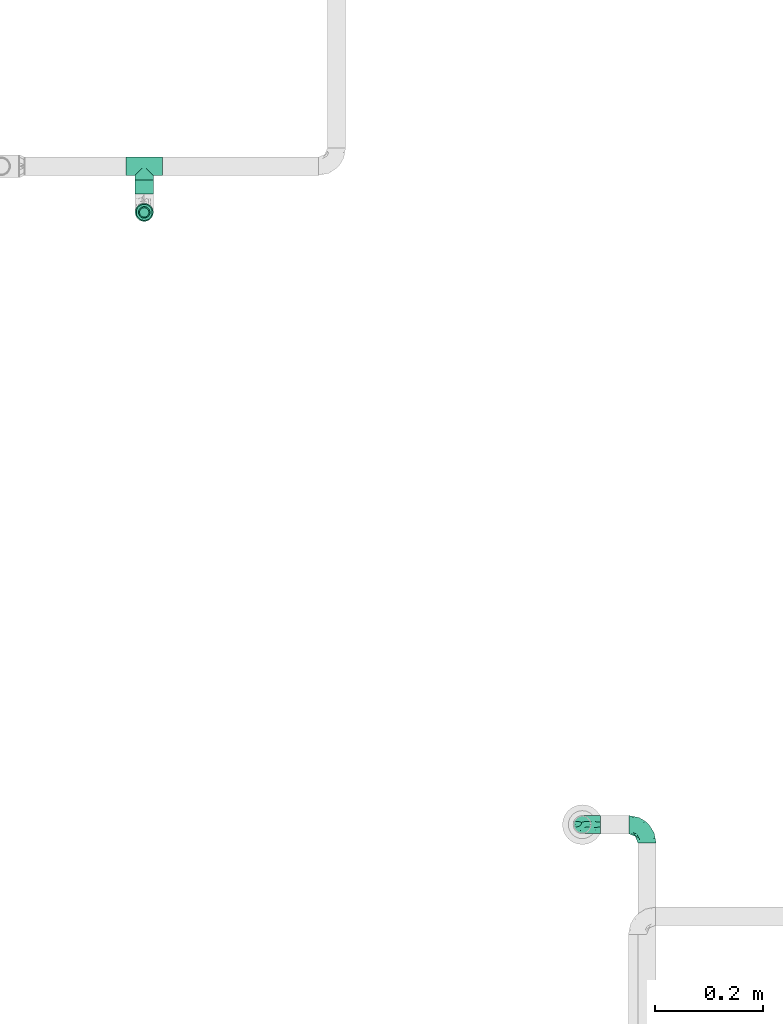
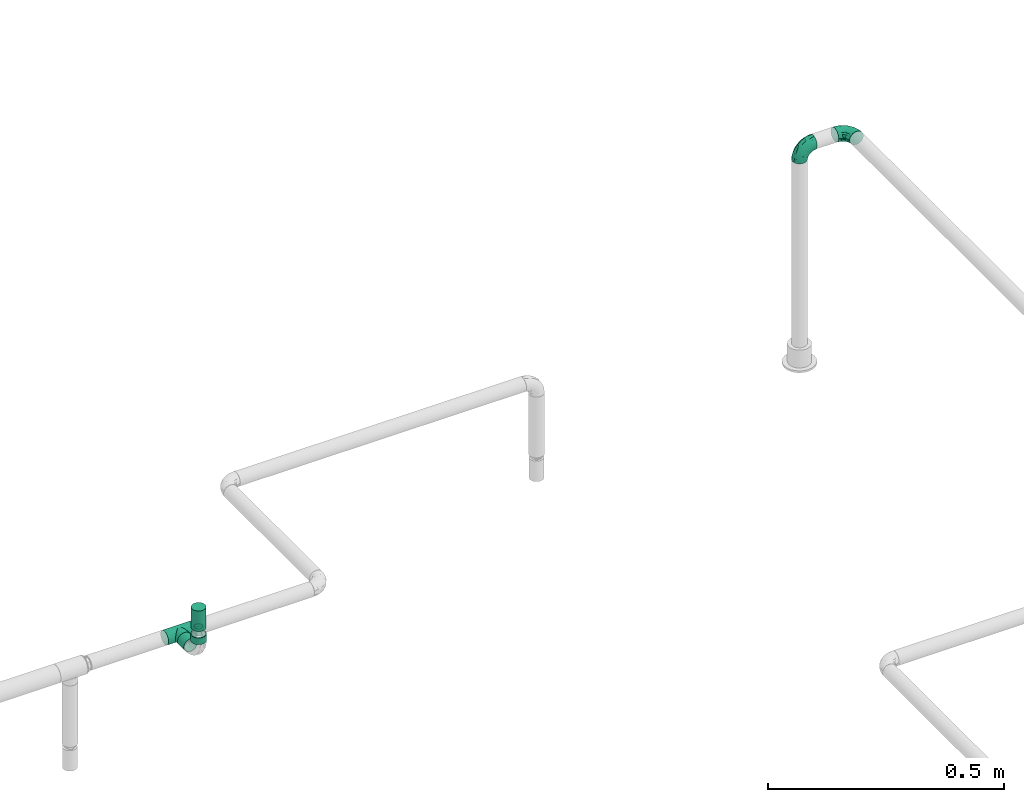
# One storey, part 69 of 95: 3 flow fittings, 3 flow segments, 1 flow terminal.
"""IFC2X3 building model written with IfcOpenShell, lengths in millimetres."""

from ifc_helpers import new_model, entity, si_unit, converted_unit, derived_unit, direction, frame, origin_with_axes, origin_2d_with_axis, place, context, subcontext, project, spatial, hollow_circle, extrude, open_shell, surface_model, source, transform, mapped, type_object, element, save


model = new_model("IFC2X3")

# Units and contexts
model_context = context("Model", 3, precision=0.01, world=frame((0.0, 4.29681676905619e-09, 0.0)), true_north=direction((4.01073788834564e-13, 1.0)))
plan_context = context("Plan", 3, precision=0.01, world=frame((0.0, 4.29681676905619e-09, 0.0)), true_north=direction((4.01073788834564e-13, 1.0)))
body_context = subcontext(model_context, "Body", "Model", "MODEL_VIEW")
ifc_project = project(units=[converted_unit("PLANEANGLEUNIT", "DEGREE", entity("IfcPositiveLengthMeasure", 0.0174532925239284), si_unit("PLANEANGLEUNIT", "RADIAN"), dimensions=[0, 0, 0, 0, 0, 0, 0]), si_unit("AREAUNIT", "SQUARE_METRE"), si_unit("LENGTHUNIT", "METRE", prefix="MILLI"), si_unit("MASSUNIT", "GRAM", prefix="KILO"), si_unit("POWERUNIT", "WATT"), si_unit("PRESSUREUNIT", "PASCAL"), si_unit("FORCEUNIT", "NEWTON", prefix="KILO"), si_unit("ELECTRICVOLTAGEUNIT", "VOLT"), si_unit("ELECTRICCURRENTUNIT", "AMPERE"), si_unit("THERMODYNAMICTEMPERATUREUNIT", "DEGREE_CELSIUS"), si_unit("TIMEUNIT", "SECOND"), si_unit("VOLUMEUNIT", "CUBIC_METRE"), derived_unit("LINEARVELOCITYUNIT", [(si_unit("LENGTHUNIT", "METRE"), 1), (si_unit("TIMEUNIT", "SECOND"), -1)]), derived_unit("VOLUMETRICFLOWRATEUNIT", [(si_unit("VOLUMEUNIT", "CUBIC_METRE"), 1), (si_unit("TIMEUNIT", "SECOND"), -1)]), derived_unit("THERMALTRANSMITTANCEUNIT", [(si_unit("POWERUNIT", "WATT"), 1), (si_unit("THERMODYNAMICTEMPERATUREUNIT", "KELVIN"), -1), (si_unit("AREAUNIT", "SQUARE_METRE"), -1)]), derived_unit("SOUNDPRESSUREUNIT", [(si_unit("PRESSUREUNIT", "PASCAL"), 1)])], contexts=[model_context, plan_context])

# Site, building, storey
site_placement = place(None, frame((0.0, -4.29681676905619e-09, 0.0), z_axis=(0.0, 0.0, 1.0), x_axis=(1.0, 0.0, 0.0)))
site = spatial("IfcSite", under=ifc_project, at=site_placement, CompositionType="ELEMENT")
building_placement = place(site_placement, frame((0.0, 4.29681676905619e-09, 0.0), z_axis=(0.0, 0.0, 1.0), x_axis=(1.0, 0.0, 0.0)))
building = spatial("IfcBuilding", under=site, at=building_placement, Name="mc-building", CompositionType="ELEMENT")
storey_placement = place(building_placement, frame((0.0, 0.0, 210900.0), z_axis=(0.0, 0.0, 1.0), x_axis=(1.0, 0.0, 0.0)))
storey = spatial("IfcBuildingStorey", under=building, at=storey_placement, Name="Nivå F", CompositionType="ELEMENT", Elevation=210900.0)

# Flow fittings
pipe_fitting_type_1 = type_object("IfcPipeFittingType", Name="magi_pipe_fe_elbow_short_001", PredefinedType="BEND")
shared_shape_1 = source(origin_with_axes(), body_context, "Body", "SurfaceModel", [
    surface_model("IfcShellBasedSurfaceModel", [(-33.8, 8.45, -14.63583), (-33.8, 4.37404, -16.32415), (-33.8, 11.9501, -11.9501), (-33.8, -11.9501, -11.9501), (-33.8, -14.63583, -8.45), (-33.8, -8.45, -14.63583), (-33.8, 0.0, -16.9), (-33.8, -4.37404, -16.32415), (-33.8, -4.37404, 16.32415), (-33.8, 0.0, 16.9), (-33.8, -8.45, 14.63583), (-33.8, 16.32415, -4.37404), (-33.8, 14.63583, -8.45), (-33.8, -16.32415, -4.37404), (-33.8, -16.9, 0.0), (-33.8, -16.32415, 4.37404), (-33.8, 11.9501, 11.9501), (-33.8, 14.63583, 8.45), (-33.8, 16.32415, 4.37404), (-33.8, 4.37404, 16.32415), (-33.8, 8.45, 14.63583), (-33.8, -14.63583, 8.45), (-33.8, -11.9501, 11.9501), (-33.8, 16.9, 0.0), (-11.9501, 33.8, -11.9501), (0.0, 33.8, -16.9), (-4.37404, 33.8, -16.32415), (-8.45, 33.8, -14.63583), (-14.63583, 33.8, -8.45), (-16.32415, 33.8, -4.37404), (14.63583, 33.8, -8.45), (8.45, 33.8, 14.63583), (16.32415, 33.8, -4.37404), (8.45, 33.8, -14.63583), (11.9501, 33.8, -11.9501), (4.37404, 33.8, -16.32415), (16.32415, 33.8, 4.37404), (16.9, 33.8, 0.0), (-11.9501, 33.8, 11.9501), (-16.32415, 33.8, 4.37404), (-14.63583, 33.8, 8.45), (-8.45, 33.8, 14.63583), (-4.37404, 33.8, 16.32415), (11.9501, 33.8, 11.9501), (14.63583, 33.8, 8.45), (0.0, 33.8, 16.9), (4.37404, 33.8, 16.32415), (-16.9, 33.8, 0.0), (-24.79389, -13.12945, 9.48721), (-22.19287, -9.75018, 12.59315), (-24.09897, -14.97035, 0.0), (-14.93934, -10.76256, 8.5297), (-22.46095, -14.75051, 5.27077), (14.75051, 22.46094, 5.27077), (11.9251, 13.23888, 4.33236), (13.04069, 14.39795, 0.0), (7.71387, 13.68847, 11.55891), (9.75018, 22.19287, 12.59315), (4.10169, 13.0571, 14.04018), (-24.84007, -6.39063, 15.2048), (-25.81779, -2.23879, 16.61097), (-23.66549, 2.59054, 16.87119), (-26.50418, 14.06512, 11.08152), (-24.21253, 17.66365, 7.72657), (-29.58514, 15.86957, 7.00283), (-6.17382, -7.5455, 0.0), (-13.23888, -11.9251, 4.33236), (-14.39795, -13.04069, 0.0), (-17.81434, 18.87373, 11.97104), (-6.30846, 29.15138, 15.82987), (-2.31622, 25.28002, 16.85849), (-29.23923, 10.23435, 13.77053), (-1.45439, -2.85688, 7.61475), (-0.28326, 0.34872, 10.09509), (-5.74484, -4.04709, 10.4122), (-4.41137, 11.31918, 16.59407), (-8.39727, 3.10034, 15.7812), (-1.72649, 9.1306, 15.53089), (-17.39909, 24.75344, 7.64977), (-26.19233, 20.0512, 0.0), (-28.14518, 17.29657, 4.25857), (-26.05147, 6.6281, 15.96447), (-5.87354, 16.61944, 16.86968), (-12.51807, 12.51807, 16.48937), (-10.06312, 7.38516, 16.81295), (-3.01882, 3.01882, 13.81718), (-13.0571, -4.10169, 14.04018), (-16.82553, -0.15166, 16.38038), (10.76256, 14.93934, 8.5297), (13.12945, 24.79389, 9.48721), (6.39063, 24.84007, 15.2048), (2.23879, 25.81779, 16.61097), (-13.68847, -7.71387, 11.55891), (14.97035, 24.09897, 0.0), (-7.30894, 22.89991, 16.09489), (-10.67958, 26.17414, 14.008), (-12.78295, 18.26924, 15.06066), (-13.88562, 22.45231, 12.93244), (-18.04944, 15.16501, 14.04434), (-23.11658, 20.08178, 4.02986), (-21.84989, 21.84989, 0.0), (-18.55817, 25.48277, 3.93065), (-13.95142, 26.94732, 11.03289), (-18.57098, 7.23906, 16.59756), (-16.58335, 4.14122, 16.89279), (-17.96666, 11.46709, 15.63151), (-9.84453, 17.54304, 16.18938), (0.15166, 16.82553, 16.38038), (-23.27207, 11.47201, 14.23154), (3.84842, 5.86994, 10.70473), (-8.0212, -7.54413, 7.93275), (1.00345, -2.19508, 4.57414), (5.13203, 3.01004, 5.90201), (5.24161, 1.7543, 2.53265), (8.70457, 7.04947, 3.99182), (-20.0512, 26.19233, 0.0), (8.4852, 8.76699, 7.09296), (-4.55488, -6.72064, 4.90681), (2.05031, -2.05031, 0.0), (7.5455, 6.17382, 0.0), (-26.75399, 2.1369, -16.845), (-14.61995, 24.73803, -11.27736), (-28.45274, -13.45335, -9.81895), (-26.00469, 6.63555, -15.96645), (-23.06726, 20.04573, -4.26202), (-13.80647, -4.26506, -14.17873), (-14.67501, -0.21081, -16.07388), (-6.7902, -0.2828, -13.8478), (-24.53586, 11.08096, -14.13417), (-26.72048, 14.00837, -11.05776), (10.0967, 24.44989, -12.75976), (5.83237, 21.40218, -15.03047), (6.66249, 28.54238, -15.38093), (-20.38182, 15.48705, -12.74596), (12.53268, 21.23441, -9.15363), (12.54494, 15.67504, -5.54878), (9.7522, 12.89279, -8.66343), (-15.65186, 19.64213, -13.01327), (-12.03528, 20.66498, -14.67665), (-15.61907, 15.61906, -14.83879), (-25.56551, -15.26206, 0.0), (-24.65452, -15.12934, -5.50955), (13.45335, 28.45274, -9.81895), (15.12934, 24.65452, -5.50955), (-7.35442, -8.31014, -5.65563), (-15.67504, -12.54494, -5.54878), (-24.44989, -10.0967, -12.75976), (0.16522, 0.41303, -9.71728), (-5.70658, -5.33066, -8.89288), (-5.13869, -2.37198, -11.53565), (-21.23441, -12.53268, -9.15363), (0.71146, 7.93863, -14.09382), (0.21081, 14.67501, -16.07388), (3.49291, 14.42772, -14.76381), (-24.89911, -2.13088, -16.591), (-28.54238, -6.66249, -15.38093), (-18.44386, -7.71663, -13.26957), (2.13088, 24.89911, -16.591), (-28.64342, 17.44413, -2.89318), (1.70017, -1.28722, -5.09504), (-16.57067, 26.81947, -7.36596), (-17.69055, 27.4263, -3.76405), (-12.89279, -9.7522, -8.66343), (-5.96611, 5.96611, -15.95814), (-20.53709, 20.09345, -8.28985), (-2.1369, 26.75399, -16.845), (-6.89872, 24.58781, -16.02578), (-10.60739, 26.53157, -13.98044), (-21.40218, -5.83237, -15.03047), (2.93192, 5.89627, -11.55917), (6.89393, 12.61842, -11.82233), (5.58056, 5.95325, -8.79455), (-3.99512, 18.61798, -16.89635), (8.31014, 7.35442, -5.65563), (-9.1383, 9.86148, -16.89041), (-9.99983, 16.02119, -16.39699), (-16.68576, 9.78031, -16.34199), (-27.01915, 16.61158, -7.12979), (15.26206, 25.56551, 0.0), (-18.61798, 3.99512, -16.89635), (-19.37495, 27.82495, 0.0), (-12.61842, -6.89393, -11.82233), (-18.84705, 19.14018, -10.96545)], [open_shell([[[0, 1, 2]], [[3, 4, 5]], [[6, 7, 5]], [[8, 9, 10]], [[1, 6, 2]], [[11, 12, 2]], [[4, 2, 6]], [[2, 13, 10]], [[5, 4, 6]], [[2, 4, 13]], [[14, 15, 13]], [[11, 2, 16]], [[11, 17, 18]], [[11, 16, 17]], [[19, 20, 16]], [[16, 2, 10]], [[19, 16, 10]], [[21, 22, 15]], [[22, 13, 15]], [[22, 10, 13]], [[10, 9, 19]], [[11, 18, 23]], [[24, 25, 26]], [[24, 26, 27]], [[24, 28, 29]], [[25, 24, 30]], [[31, 32, 24]], [[33, 30, 34]], [[33, 35, 25]], [[25, 30, 33]], [[32, 30, 24]], [[32, 36, 37]], [[38, 24, 29]], [[39, 40, 29]], [[40, 38, 29]], [[38, 41, 42]], [[38, 31, 24]], [[31, 38, 42]], [[36, 43, 44]], [[36, 32, 43]], [[31, 45, 46]], [[32, 31, 43]], [[42, 45, 31]], [[39, 29, 47]], [[22, 48, 49]], [[15, 14, 50]], [[51, 48, 52]], [[53, 54, 55]], [[48, 22, 21]], [[15, 52, 21]], [[56, 57, 58]], [[49, 10, 22]], [[49, 59, 10]], [[9, 60, 61]], [[62, 63, 64]], [[65, 66, 67]], [[57, 43, 31]], [[62, 68, 63]], [[42, 69, 70]], [[20, 71, 16]], [[8, 60, 9]], [[72, 73, 74]], [[75, 76, 77]], [[16, 62, 17]], [[40, 39, 78]], [[79, 23, 80]], [[64, 18, 17]], [[9, 61, 19]], [[19, 81, 20]], [[82, 83, 84]], [[74, 85, 86]], [[59, 86, 87]], [[88, 89, 57]], [[90, 31, 46]], [[44, 53, 36]], [[46, 45, 91]], [[54, 53, 88]], [[44, 89, 53]], [[92, 86, 49]], [[89, 44, 43]], [[10, 59, 8]], [[53, 55, 93]], [[93, 36, 53]], [[66, 52, 67]], [[94, 82, 70]], [[95, 96, 94]], [[97, 98, 96]], [[79, 99, 100]], [[41, 38, 95]], [[101, 100, 99]], [[68, 78, 63]], [[42, 41, 69]], [[23, 18, 80]], [[95, 94, 69]], [[78, 101, 99]], [[38, 102, 95]], [[70, 45, 42]], [[97, 95, 102]], [[15, 50, 52]], [[90, 57, 31]], [[57, 90, 58]], [[81, 19, 61]], [[103, 104, 84]], [[105, 81, 103]], [[38, 40, 102]], [[106, 96, 83]], [[94, 106, 82]], [[91, 70, 107]], [[71, 62, 16]], [[62, 108, 98]], [[86, 59, 49]], [[67, 52, 50]], [[60, 59, 87]], [[92, 49, 51]], [[86, 85, 76]], [[91, 90, 46]], [[37, 36, 93]], [[107, 77, 58]], [[107, 58, 90]], [[58, 85, 109]], [[110, 74, 92]], [[72, 74, 110]], [[66, 51, 52]], [[72, 111, 112]], [[113, 114, 112]], [[56, 88, 57]], [[52, 48, 21]], [[49, 48, 51]], [[57, 89, 43]], [[53, 89, 88]], [[103, 81, 61]], [[71, 81, 108]], [[18, 64, 80]], [[63, 78, 99]], [[47, 115, 101]], [[101, 115, 100]], [[40, 78, 102]], [[68, 102, 78]], [[97, 96, 95]], [[105, 98, 108]], [[103, 84, 83]], [[107, 70, 82]], [[76, 84, 87]], [[82, 84, 75]], [[70, 91, 45]], [[90, 91, 107]], [[59, 60, 8]], [[61, 60, 87]], [[73, 85, 74]], [[109, 112, 116]], [[103, 61, 104]], [[105, 103, 83]], [[96, 105, 83]], [[81, 105, 108]], [[96, 98, 105]], [[62, 98, 68]], [[61, 87, 104]], [[87, 84, 104]], [[86, 76, 87]], [[77, 76, 85]], [[58, 77, 85]], [[75, 77, 107]], [[82, 75, 107]], [[76, 75, 84]], [[81, 71, 20]], [[62, 71, 108]], [[95, 69, 41]], [[70, 69, 94]], [[62, 64, 17]], [[80, 63, 99]], [[63, 80, 64]], [[80, 99, 79]], [[66, 65, 117]], [[110, 66, 117]], [[112, 114, 116]], [[118, 117, 65]], [[110, 92, 51]], [[112, 111, 113]], [[119, 55, 54]], [[74, 86, 92]], [[58, 109, 56]], [[116, 56, 109]], [[66, 110, 51]], [[72, 110, 117]], [[111, 72, 117]], [[73, 112, 109]], [[117, 118, 111]], [[113, 111, 118]], [[118, 119, 113]], [[114, 119, 54]], [[119, 114, 113]], [[116, 54, 88]], [[54, 116, 114]], [[116, 88, 56]], [[112, 73, 72]], [[85, 73, 109]], [[78, 39, 101]], [[47, 101, 39]], [[102, 68, 97]], [[97, 68, 98]], [[82, 106, 83]], [[94, 96, 106]], [[1, 120, 6]], [[28, 24, 121]], [[3, 122, 4]], [[0, 123, 1]], [[100, 124, 79]], [[125, 126, 127]], [[128, 2, 129]], [[130, 131, 132]], [[128, 129, 133]], [[134, 135, 136]], [[137, 138, 139]], [[128, 0, 2]], [[67, 140, 141]], [[134, 142, 143]], [[141, 13, 4]], [[144, 65, 145]], [[146, 3, 5]], [[147, 148, 149]], [[145, 141, 150]], [[151, 152, 153]], [[154, 7, 6]], [[5, 155, 146]], [[150, 146, 156]], [[155, 5, 7]], [[143, 135, 134]], [[35, 157, 25]], [[23, 79, 158]], [[148, 159, 144]], [[160, 161, 29]], [[145, 162, 144]], [[163, 152, 151]], [[29, 28, 160]], [[121, 164, 160]], [[33, 34, 130]], [[25, 165, 26]], [[26, 165, 166]], [[142, 34, 30]], [[24, 27, 167]], [[124, 161, 164]], [[157, 35, 132]], [[155, 154, 168]], [[123, 0, 128]], [[169, 170, 171]], [[172, 157, 152]], [[26, 166, 27]], [[132, 35, 33]], [[142, 130, 34]], [[168, 154, 126]], [[136, 135, 173]], [[133, 137, 139]], [[2, 12, 129]], [[170, 131, 130]], [[30, 32, 143]], [[172, 174, 175]], [[176, 123, 128]], [[158, 177, 11]], [[135, 55, 119]], [[167, 27, 166]], [[175, 166, 172]], [[137, 167, 138]], [[122, 141, 4]], [[140, 14, 13]], [[32, 37, 178]], [[170, 130, 134]], [[152, 157, 131]], [[165, 157, 172]], [[153, 170, 151]], [[152, 163, 174]], [[168, 125, 156]], [[122, 146, 150]], [[120, 154, 6]], [[179, 174, 126]], [[179, 126, 154]], [[126, 163, 127]], [[162, 145, 150]], [[140, 13, 141]], [[32, 178, 143]], [[55, 143, 178]], [[177, 129, 12]], [[128, 133, 139]], [[176, 128, 139]], [[120, 123, 179]], [[121, 160, 28]], [[161, 100, 180]], [[166, 175, 138]], [[121, 24, 167]], [[161, 47, 29]], [[79, 124, 158]], [[124, 164, 177]], [[161, 124, 100]], [[136, 171, 170]], [[127, 163, 151]], [[147, 171, 159]], [[148, 144, 162]], [[127, 151, 169]], [[127, 181, 125]], [[129, 177, 164]], [[12, 11, 177]], [[159, 65, 144]], [[67, 141, 145]], [[143, 55, 135]], [[135, 119, 173]], [[123, 120, 1]], [[154, 120, 179]], [[157, 165, 25]], [[166, 165, 172]], [[172, 152, 174]], [[176, 139, 175]], [[126, 174, 163]], [[176, 174, 179]], [[174, 176, 175]], [[123, 176, 179]], [[150, 181, 162]], [[127, 149, 181]], [[181, 148, 162]], [[159, 148, 147]], [[171, 136, 173]], [[170, 134, 136]], [[159, 171, 173]], [[171, 147, 169]], [[169, 147, 149]], [[151, 170, 169]], [[164, 182, 129]], [[182, 121, 137]], [[181, 149, 148]], [[169, 149, 127]], [[182, 137, 133]], [[167, 137, 121]], [[166, 138, 167]], [[175, 139, 138]], [[129, 182, 133]], [[121, 182, 164]], [[161, 160, 164]], [[47, 161, 180]], [[177, 158, 124]], [[23, 158, 11]], [[130, 132, 33]], [[157, 132, 131]], [[143, 142, 30]], [[130, 142, 134]], [[154, 155, 7]], [[146, 155, 168]], [[146, 122, 3]], [[141, 122, 150]], [[152, 131, 153]], [[159, 119, 118]], [[67, 145, 65]], [[170, 153, 131]], [[119, 159, 173]], [[159, 118, 65]], [[156, 125, 181]], [[126, 125, 168]], [[150, 156, 181]], [[168, 156, 146]]])]),
])
for number, where, z_axis, x_axis, name in (
    (1, (522798.57312, 455598.0, 4315.0), (0.0, 0.0, 1.0), (0.0, 1.0, 0.0), "magi_pipe_fe_elbow_short_001"),
    (2, (522678.57312, 455598.0, 4315.0), (0.0, -1.0, 0.0), (-1.0, 0.0, 0.0), "magi_pipe_fe_elbow_short_001"),
):
    element("IfcFlowFitting", number, at=place(storey_placement, frame(where, z_axis=z_axis, x_axis=x_axis)), inside=storey, type_object=pipe_fitting_type_1, Name=name, context=body_context, shape_type="MappedRepresentation", body=[
        mapped(shared_shape_1, transform((0.0, 0.0, 0.0), scale=1.0)),
    ])
pipe_fitting_type_2 = type_object("IfcPipeFittingType", Name="magi_pipe_fe_tee_centric_90_NOR", PredefinedType="JUNCTION")
shared_shape_2 = source(origin_with_axes(), body_context, "Body", "SurfaceModel", [
    surface_model("IfcShellBasedSurfaceModel", [(-33.8, 4.37404, -16.32415), (-33.8, 0.0, -16.9), (-33.8, 16.32415, -4.37404), (-33.8, 8.45, -14.63583), (-33.8, 11.9501, -11.9501), (-33.8, 14.63583, -8.45), (-33.8, -16.9, 0.0), (-33.8, -11.9501, -11.9501), (-33.8, -14.63583, -8.45), (-33.8, -8.45, -14.63583), (-33.8, -4.37404, -16.32415), (-33.8, -16.32415, -4.37404), (-33.8, 14.63583, 8.45), (-33.8, 16.32415, 4.37404), (-33.8, -8.45, 14.63583), (-33.8, 8.45, 14.63583), (-33.8, 11.9501, 11.9501), (-33.8, 4.37404, 16.32415), (-33.8, 0.0, 16.9), (-33.8, -11.9501, 11.9501), (-33.8, -14.63583, 8.45), (-33.8, -16.32415, 4.37404), (-33.8, -4.37404, 16.32415), (-33.8, 16.9, 0.0), (33.8, 4.37404, -16.32415), (33.8, -16.9, 0.0), (33.8, 0.0, -16.9), (33.8, 14.63583, -8.45), (33.8, 8.45, -14.63583), (33.8, 16.32415, -4.37404), (33.8, 11.9501, -11.9501), (33.8, -16.32415, 4.37404), (33.8, -8.45, -14.63583), (33.8, -4.37404, -16.32415), (33.8, -11.9501, -11.9501), (33.8, -14.63583, -8.45), (33.8, -16.32415, -4.37404), (33.8, 16.32415, 4.37404), (33.8, 8.45, 14.63583), (33.8, 14.63583, 8.45), (33.8, 11.9501, 11.9501), (33.8, -8.45, 14.63583), (33.8, 4.37404, 16.32415), (33.8, -14.63583, 8.45), (33.8, -11.9501, 11.9501), (33.8, 0.0, 16.9), (33.8, -4.37404, 16.32415), (33.8, 16.9, 0.0), (16.28698, -16.28698, 4.51047), (16.9, -16.9, 0.0), (14.62704, -14.62704, 8.4652), (9.47213, -9.47213, 13.99602), (12.26343, -12.26343, 11.62834), (-16.9, -16.9, 0.0), (-16.28698, -16.28698, 4.51047), (-14.62704, -14.62704, 8.4652), (-12.26343, -12.26343, 11.62834), (-9.47213, -9.47213, 13.99602), (-6.42894, -6.42894, 15.62942), (6.42894, -6.42894, 15.62942), (3.24522, -3.24522, 16.58549), (0.0, 0.0, 16.9), (-3.24522, -3.24522, 16.58549), (3.24522, -3.24522, -16.58549), (0.0, 0.0, -16.9), (-3.24522, -3.24522, -16.58549), (-6.42894, -6.42894, -15.62942), (6.42894, -6.42894, -15.62942), (9.47213, -9.47213, -13.99602), (12.26343, -12.26343, -11.62834), (14.62704, -14.62704, -8.4652), (16.28698, -16.28698, -4.51047), (-9.47213, -9.47213, -13.99602), (-12.26343, -12.26343, -11.62834), (-16.28698, -16.28698, -4.51047), (-14.62704, -14.62704, -8.4652), (4.37404, -25.35, -16.32415), (-16.9, -25.35, 0.0), (0.0, -25.35, -16.9), (14.63583, -25.35, -8.45), (8.45, -25.35, -14.63583), (16.32415, -25.35, -4.37404), (11.9501, -25.35, -11.9501), (-11.9501, -25.35, -11.9501), (-8.45, -25.35, -14.63583), (-4.37404, -25.35, -16.32415), (-14.63583, -25.35, -8.45), (-16.32415, -25.35, -4.37404), (16.9, -25.35, 0.0), (8.45, -25.35, 14.63583), (16.32415, -25.35, 4.37404), (14.63583, -25.35, 8.45), (-8.45, -25.35, 14.63583), (11.9501, -25.35, 11.9501), (4.37404, -25.35, 16.32415), (-16.32415, -25.35, 4.37404), (-11.9501, -25.35, 11.9501), (-14.63583, -25.35, 8.45), (0.0, -25.35, 16.9), (-4.37404, -25.35, 16.32415)], [open_shell([[[0, 1, 2]], [[3, 0, 4]], [[0, 2, 5]], [[4, 0, 5]], [[6, 2, 1]], [[7, 8, 9]], [[1, 10, 9]], [[11, 6, 8]], [[1, 9, 8]], [[1, 8, 6]], [[6, 12, 2]], [[12, 13, 2]], [[14, 12, 6]], [[12, 14, 15]], [[16, 12, 15]], [[17, 15, 18]], [[19, 14, 20]], [[21, 20, 14]], [[22, 18, 14]], [[14, 6, 21]], [[14, 18, 15]], [[23, 2, 13]], [[24, 25, 26]], [[27, 24, 28]], [[27, 29, 24]], [[27, 28, 30]], [[31, 25, 24]], [[26, 32, 33]], [[26, 34, 32]], [[35, 25, 36]], [[35, 34, 26]], [[25, 35, 26]], [[24, 29, 31]], [[29, 37, 38]], [[38, 37, 39]], [[38, 31, 29]], [[38, 39, 40]], [[41, 38, 42]], [[43, 41, 44]], [[41, 43, 31]], [[41, 45, 46]], [[41, 31, 38]], [[42, 45, 41]], [[29, 47, 37]], [[31, 43, 48]], [[25, 31, 49]], [[49, 31, 48]], [[43, 50, 48]], [[44, 41, 51]], [[50, 43, 52]], [[51, 52, 44]], [[52, 43, 44]], [[53, 54, 21]], [[53, 21, 6]], [[21, 54, 20]], [[54, 55, 20]], [[56, 57, 19]], [[19, 20, 56]], [[19, 57, 14]], [[56, 20, 55]], [[14, 57, 58]], [[51, 41, 59]], [[60, 45, 61]], [[59, 46, 60]], [[46, 59, 41]], [[60, 46, 45]], [[61, 45, 42]], [[39, 37, 13]], [[16, 38, 40]], [[12, 40, 39]], [[42, 38, 15]], [[23, 37, 47]], [[62, 61, 18]], [[62, 22, 58]], [[22, 62, 18]], [[58, 22, 14]], [[61, 17, 18]], [[42, 17, 61]], [[15, 17, 42]], [[15, 38, 16]], [[12, 16, 40]], [[13, 12, 39]], [[37, 23, 13]], [[5, 27, 30]], [[23, 47, 29]], [[30, 28, 3]], [[27, 2, 29]], [[26, 33, 63]], [[26, 64, 24]], [[64, 26, 63]], [[28, 24, 0]], [[64, 0, 24]], [[4, 30, 3]], [[2, 27, 5]], [[5, 30, 4]], [[2, 23, 29]], [[65, 66, 10]], [[1, 0, 64]], [[1, 65, 10]], [[66, 9, 10]], [[0, 3, 28]], [[1, 64, 65]], [[63, 33, 67]], [[32, 34, 68]], [[69, 68, 34]], [[35, 70, 69]], [[69, 34, 35]], [[32, 68, 67]], [[36, 25, 49]], [[36, 71, 35]], [[71, 36, 49]], [[35, 71, 70]], [[72, 9, 66]], [[72, 7, 9]], [[7, 72, 73]], [[7, 73, 8]], [[74, 53, 11]], [[75, 74, 8]], [[74, 11, 8]], [[11, 53, 6]], [[75, 8, 73]], [[32, 67, 33]], [[76, 77, 78]], [[79, 76, 80]], [[79, 81, 76]], [[79, 80, 82]], [[77, 76, 81]], [[78, 83, 84]], [[84, 85, 78]], [[86, 77, 87]], [[83, 78, 86]], [[77, 86, 78]], [[81, 88, 77]], [[89, 88, 90]], [[89, 90, 91]], [[92, 77, 89]], [[89, 91, 93]], [[92, 89, 94]], [[95, 96, 97]], [[96, 95, 92]], [[92, 98, 99]], [[95, 77, 92]], [[94, 98, 92]], [[89, 77, 88]], [[77, 95, 53]], [[54, 53, 95]], [[97, 96, 56]], [[96, 92, 57]], [[95, 97, 54]], [[58, 92, 99]], [[55, 54, 97]], [[56, 55, 97]], [[58, 57, 92]], [[98, 61, 62]], [[58, 99, 62]], [[56, 96, 57]], [[62, 99, 98]], [[94, 60, 98]], [[89, 59, 94]], [[91, 90, 48]], [[52, 93, 91]], [[93, 51, 89]], [[49, 90, 88]], [[59, 60, 94]], [[51, 59, 89]], [[49, 48, 90]], [[50, 52, 91]], [[48, 50, 91]], [[51, 93, 52]], [[98, 60, 61]], [[88, 81, 49]], [[71, 49, 81]], [[79, 82, 69]], [[82, 80, 68]], [[81, 79, 71]], [[67, 80, 76]], [[70, 71, 79]], [[69, 70, 79]], [[67, 68, 80]], [[78, 64, 63]], [[67, 76, 63]], [[69, 82, 68]], [[63, 76, 78]], [[85, 65, 78]], [[84, 66, 85]], [[86, 87, 74]], [[86, 73, 83]], [[72, 84, 83]], [[53, 87, 77]], [[66, 65, 85]], [[72, 66, 84]], [[53, 74, 87]], [[75, 73, 86]], [[74, 75, 86]], [[72, 83, 73]], [[78, 65, 64]]])]),
])
flow_fitting_placement = place(storey_placement, frame((521865.41856, 456820.05824, 2600.0), z_axis=(0.0, 0.0, -1.0), x_axis=(-1.0, 0.0, 0.0)))
element("IfcFlowFitting", 3, at=flow_fitting_placement, inside=storey, type_object=pipe_fitting_type_2, Name="magi_pipe_fe_tee_centric_90_NOR", context=body_context, shape_type="MappedRepresentation", body=[
    mapped(shared_shape_2, transform((0.0, 0.0, 0.0), scale=1.0)),
])

# Flow segments
pipe_segment_type = type_object("IfcPipeSegmentType", Name="Stålrør normaltykke", PredefinedType="RIGIDSEGMENT")
shared_shape_3 = source(origin_with_axes(), body_context, "Body", "SweptSolid", [
    extrude(hollow_circle(Radius=16.9, WallThickness=2.0, at=origin_2d_with_axis()), frame((0.0, 0.0, 0.0), z_axis=(1.0, 0.0, 0.0), x_axis=(0.0, 1.0, 0.0)), (0.0, 0.0, 1.0), 26.5),
])
flow_segment_1_placement = place(storey_placement, frame((521865.41856, 456768.22495, 2600.0), z_axis=(0.0, 0.0, 1.0), x_axis=(0.0, 1.0, 0.0)))
element("IfcFlowSegment", 4, at=flow_segment_1_placement, inside=storey, type_object=pipe_segment_type, Name="Stålrør normaltykke", context=body_context, shape_type="MappedRepresentation", body=[
    mapped(shared_shape_3, transform((0.0, 0.0, 0.0), scale=1.0)),
])
shared_shape_4 = source(origin_with_axes(), body_context, "Body", "SweptSolid", [
    extrude(hollow_circle(Radius=16.9, WallThickness=2.0, at=origin_2d_with_axis()), frame((0.0, 0.0, 0.0), z_axis=(1.0, 0.0, 0.0), x_axis=(0.0, 1.0, 0.0)), (0.0, 0.0, 1.0), 17.0),
])
flow_segment_2_placement = place(storey_placement, frame((521865.41856, 456734.42495, 2633.79999999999), z_axis=(-1.0, 0.0, 0.0), x_axis=(0.0, 0.0, 1.0)))
element("IfcFlowSegment", 5, at=flow_segment_2_placement, inside=storey, type_object=pipe_segment_type, Name="Stålrør normaltykke", context=body_context, shape_type="MappedRepresentation", body=[
    mapped(shared_shape_4, transform((0.0, 0.0, 0.0), scale=1.0)),
])
shared_shape_5 = source(origin_with_axes(), body_context, "Body", "SweptSolid", [
    extrude(hollow_circle(Radius=10.7, WallThickness=2.0, at=origin_2d_with_axis()), frame((0.0, 0.0, 0.0), z_axis=(1.0, 0.0, 0.0), x_axis=(0.0, 1.0, 0.0)), (0.0, 0.0, 1.0), 6.9),
])
flow_segment_3_placement = place(storey_placement, frame((521865.41856, 456734.42495, 2670.04800000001), z_axis=(-1.0, 0.0, 0.0), x_axis=(0.0, 0.0, -1.0)))
element("IfcFlowSegment", 6, at=flow_segment_3_placement, inside=storey, type_object=pipe_segment_type, Name="Stålrør normaltykke", context=body_context, shape_type="MappedRepresentation", body=[
    mapped(shared_shape_5, transform((0.0, 0.0, 0.0), scale=1.0)),
])

# Flow terminal
fire_suppression_terminal_type = type_object("IfcFireSuppressionTerminalType", Name="SP-15-K80-68DGR-STD-STÅENDE 2", PredefinedType="NOTDEFINED")
shared_shape_6 = source(origin_with_axes(), body_context, "Body", "SurfaceModel", [
    surface_model("IfcShellBasedSurfaceModel", [(4.1411, -15.45481, 53.0), (8.0, -13.85641, 53.0), (11.31371, -11.31371, 53.0), (-8.0, -13.85641, 53.0), (15.45481, -4.1411, 53.0), (16.0, 0.0, 53.0), (13.85641, -8.0, 53.0), (0.0, -16.0, 53.0), (-4.1411, -15.45481, 53.0), (-13.85641, -8.0, 53.0), (-11.31371, -11.31371, 53.0), (-15.45481, -4.1411, 53.0), (15.45481, 4.1411, 53.0), (13.85641, 8.0, 53.0), (11.31371, 11.31371, 53.0), (-4.1411, 15.45481, 53.0), (8.0, 13.85641, 53.0), (4.1411, 15.45481, 53.0), (0.0, 16.0, 53.0), (-13.85641, 8.0, 53.0), (-15.45481, 4.1411, 53.0), (-16.0, 0.0, 53.0), (-11.31371, 11.31371, 53.0), (-8.0, 13.85641, 53.0), (0.0, 16.0, 0.0), (4.1411, 15.45481, 0.0), (8.0, 13.85641, 0.0), (-4.1411, 15.45481, 0.0), (11.31371, 11.31371, 0.0), (13.85641, 8.0, 0.0), (15.45481, 4.1411, 0.0), (-15.45481, -4.1411, 0.0), (-11.31371, 11.31371, 0.0), (-8.0, 13.85641, 0.0), (-13.85641, 8.0, 0.0), (-15.45481, 4.1411, 0.0), (-16.0, 0.0, 0.0), (4.1411, -15.45481, 0.0), (16.0, 0.0, 0.0), (15.45481, -4.1411, 0.0), (13.85641, -8.0, 0.0), (11.31371, -11.31371, 0.0), (8.0, -13.85641, 0.0), (-8.0, -13.85641, 0.0), (-13.85641, -8.0, 0.0), (-11.31371, -11.31371, 0.0), (0.0, -16.0, 0.0), (-4.1411, -15.45481, 0.0)], [open_shell([[[0, 1, 2]], [[3, 0, 2]], [[4, 5, 2]], [[4, 2, 6]], [[3, 2, 5]], [[7, 3, 8]], [[7, 0, 3]], [[3, 9, 10]], [[9, 3, 11]], [[5, 11, 3]], [[5, 12, 11]], [[12, 13, 14]], [[15, 12, 14]], [[16, 17, 18]], [[14, 16, 15]], [[18, 15, 16]], [[11, 19, 20]], [[21, 11, 20]], [[22, 15, 23]], [[15, 22, 19]], [[19, 11, 15]], [[11, 12, 15]], [[24, 25, 26]], [[27, 24, 26]], [[28, 29, 30]], [[27, 26, 28]], [[27, 28, 31]], [[27, 32, 33]], [[32, 27, 34]], [[34, 31, 35]], [[31, 34, 27]], [[35, 31, 36]], [[28, 30, 31]], [[37, 38, 39]], [[37, 39, 40]], [[41, 42, 37]], [[41, 37, 40]], [[38, 37, 43]], [[44, 43, 45]], [[43, 44, 31]], [[43, 46, 47]], [[43, 31, 38]], [[37, 46, 43]], [[38, 31, 30]], [[11, 31, 44]], [[45, 9, 44]], [[3, 43, 47]], [[45, 43, 10]], [[8, 47, 46]], [[31, 21, 36]], [[31, 11, 21]], [[44, 9, 11]], [[45, 10, 9]], [[3, 10, 43]], [[47, 8, 3]], [[46, 7, 8]], [[0, 37, 42]], [[41, 1, 42]], [[6, 40, 39]], [[41, 40, 2]], [[4, 39, 38]], [[37, 0, 7]], [[42, 1, 0]], [[41, 2, 1]], [[40, 6, 2]], [[4, 6, 39]], [[38, 5, 4]], [[37, 7, 46]], [[12, 38, 30]], [[13, 30, 29]], [[16, 26, 25]], [[17, 25, 24]], [[30, 13, 12]], [[12, 5, 38]], [[28, 14, 13]], [[28, 26, 14]], [[14, 26, 16]], [[25, 17, 16]], [[28, 13, 29]], [[24, 18, 17]], [[15, 27, 33]], [[32, 23, 33]], [[19, 34, 35]], [[32, 34, 22]], [[20, 35, 36]], [[27, 15, 18]], [[33, 23, 15]], [[32, 22, 23]], [[34, 19, 22]], [[20, 19, 35]], [[36, 21, 20]], [[27, 18, 24]]])]),
])
flow_terminal_placement = place(storey_placement, frame((521865.41856, 456734.42495, 2667.0), z_axis=(0.0, 0.0, 1.0), x_axis=(-1.0, 0.0, 0.0)))
element("IfcFlowTerminal", 7, at=flow_terminal_placement, inside=storey, type_object=fire_suppression_terminal_type, Name="SP-15-K80-68DGR-STD-STÅENDE 2", context=body_context, shape_type="MappedRepresentation", body=[
    mapped(shared_shape_6, transform((0.0, 0.0, 0.0), scale=1.0)),
])

save(model, "model.ifc")
